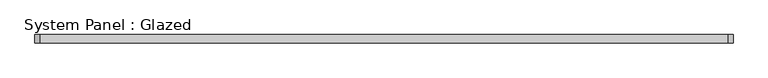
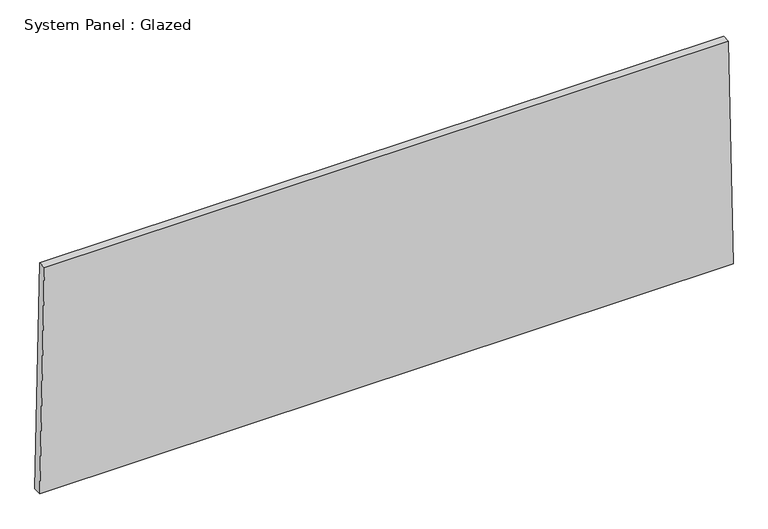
"""IFC4 building model written with IfcOpenShell, lengths in millimetres: plate geometry, System Panel : Glazed."""

import ifcopenshell
import ifcopenshell.guid

model = None  # the IFC model being written
_history = None  # IfcOwnerHistory: only IFC2X3 demands one
_inside = {}  # id of a spatial element -> (the spatial element, [elements in it])
_under = {}  # id of a project, library or spatial element -> (it, [spatial elements below it])
_declared = {}  # id of a project -> (the project, [libraries it declares])
_typed = {}  # id of a type object -> (the type object, [elements of that type])
_made_of = {}  # id of a material, layer set ... -> (it, [elements and type objects made of it])


def new_model(schema):
    """Start an empty IFC model of exactly this schema.

    Asked for "IFC4X3", IfcOpenShell would pick the latest addendum, in which some entities
    have other attributes; the version numbers below select the first issue.
    IFC2X3 requires an IfcOwnerHistory on every rooted entity: one is made here for all.
    """
    global model, _history
    if schema == "IFC4X3":
        model = ifcopenshell.file(schema_version=(4, 3, 0, 0))
    else:
        model = ifcopenshell.file(schema=schema)
    _inside.clear()
    _under.clear()
    _declared.clear()
    _typed.clear()
    _made_of.clear()
    _history = None
    if model.schema == "IFC2X3":
        org = make("IfcOrganization", Name="unknown")
        user = make(
            "IfcPersonAndOrganization",
            ThePerson=make("IfcPerson", FamilyName="unknown"),
            TheOrganization=org,
        )
        app = make(
            "IfcApplication",
            ApplicationDeveloper=org,
            Version="unknown",
            ApplicationFullName="unknown",
            ApplicationIdentifier="unknown",
        )
        _history = make(
            "IfcOwnerHistory",
            OwningUser=user,
            OwningApplication=app,
            ChangeAction="ADDED",
            CreationDate=0,
        )
    return model


def make(cls, **values):
    """One entity of the class cls with the attributes given. An attribute that is None is left unset."""
    return model.create_entity(
        cls, **{name: value for name, value in values.items() if value is not None}
    )


def rooted(cls, **values):
    """An entity with a GlobalId (a new one), such as an element, a storey or a relation."""
    return make(cls, GlobalId=ifcopenshell.guid.new(), OwnerHistory=_history, **values)


def si_unit(unit_type, name, prefix=None):
    """IfcSIUnit, for example si_unit("LENGTHUNIT", "METRE", prefix="MILLI")."""
    return make("IfcSIUnit", UnitType=unit_type, Prefix=prefix, Name=name)


def assignment(units):
    """IfcUnitAssignment: the units of a project."""
    return None if units is None else make("IfcUnitAssignment", Units=units)


def point(xyz):
    """IfcCartesianPoint."""
    return None if xyz is None else make("IfcCartesianPoint", Coordinates=xyz)


def direction(xyz):
    """IfcDirection."""
    return None if xyz is None else make("IfcDirection", DirectionRatios=xyz)


def frame(location, z_axis=None, x_axis=None):
    """IfcAxis2Placement3D, a coordinate frame: its origin and axes. An axis left out is left unset."""
    return make(
        "IfcAxis2Placement3D",
        Location=point(location),
        Axis=direction(z_axis),
        RefDirection=direction(x_axis),
    )


def origin():
    """The frame at (0, 0, 0) with its axes left unset."""
    return frame((0.0, 0.0, 0.0))


def place(relative_to, where):
    """IfcLocalPlacement: puts the frame where relative to a parent placement (None: the world)."""
    return make(
        "IfcLocalPlacement", PlacementRelTo=relative_to, RelativePlacement=where
    )


def context(
    kind, dimensions, precision=None, world=None, true_north=None, identifier=None
):
    """IfcGeometricRepresentationContext, for example the 3D "Model" context."""
    return make(
        "IfcGeometricRepresentationContext",
        ContextIdentifier=identifier,
        ContextType=kind,
        CoordinateSpaceDimension=dimensions,
        Precision=precision,
        WorldCoordinateSystem=world,
        TrueNorth=true_north,
    )


def project(units=None, contexts=None):
    """IfcProject with its units and contexts."""
    return rooted(
        "IfcProject",
        Name="project",
        RepresentationContexts=contexts,
        UnitsInContext=assignment(units),
    )


def spatial(cls, under=None, at=None, **own):
    """A site, building, storey or space (cls), placed at a placement, below another one or the project."""
    s = rooted(cls, ObjectPlacement=at, **own)
    if under is not None:
        _under.setdefault(under.id(), (under, []))[1].append(s)
    return s


def polyline(points):
    """IfcPolyline through the points."""
    return make("IfcPolyline", Points=[point(p) for p in points])


def outline(outer, holes=None, kind="AREA"):
    """IfcArbitraryClosedProfileDef: a profile drawn as a closed curve; with holes, ...WithVoids."""
    if holes is None:
        return make("IfcArbitraryClosedProfileDef", ProfileType=kind, OuterCurve=outer)
    return make(
        "IfcArbitraryProfileDefWithVoids",
        ProfileType=kind,
        OuterCurve=outer,
        InnerCurves=holes,
    )


def extrude(swept, where, along, depth):
    """IfcExtrudedAreaSolid: the profile swept, set in the frame where, extruded along a direction by depth."""
    return make(
        "IfcExtrudedAreaSolid",
        SweptArea=swept,
        Position=where,
        ExtrudedDirection=direction(along),
        Depth=depth,
    )


def shape(context_of_items, identifier, shape_type, items):
    """IfcShapeRepresentation: the items that make up one representation, for example the "Body"."""
    return make(
        "IfcShapeRepresentation",
        ContextOfItems=context_of_items,
        RepresentationIdentifier=identifier,
        RepresentationType=shape_type,
        Items=items,
    )


def source(mapping_origin, context_of_items, identifier, shape_type, items):
    """IfcRepresentationMap: a shape defined once, which mapped items show again and again."""
    return make(
        "IfcRepresentationMap",
        MappingOrigin=mapping_origin,
        MappedRepresentation=shape(context_of_items, identifier, shape_type, items),
    )


def transform(
    local_origin,
    x_axis=None,
    y_axis=None,
    z_axis=None,
    scale=None,
    scale2=None,
    scale3=None,
    uniform=True,
):
    """IfcCartesianTransformationOperator3D, or its non-uniform kind. x_axis, y_axis, z_axis: its Axis1, 2, 3."""
    if uniform:
        return make(
            "IfcCartesianTransformationOperator3D",
            Axis1=direction(x_axis),
            Axis2=direction(y_axis),
            LocalOrigin=point(local_origin),
            Scale=scale,
            Axis3=direction(z_axis),
        )
    return make(
        "IfcCartesianTransformationOperator3DnonUniform",
        Axis1=direction(x_axis),
        Axis2=direction(y_axis),
        LocalOrigin=point(local_origin),
        Scale=scale,
        Axis3=direction(z_axis),
        Scale2=scale2,
        Scale3=scale3,
    )


def mapped(mapping_source, mapping_target):
    """IfcMappedItem: shows the shape of a source again, moved by a transform."""
    return make(
        "IfcMappedItem", MappingSource=mapping_source, MappingTarget=mapping_target
    )


def made_of(thing, what):
    """Note that an element or type object is made of a material, layer set ...; save() writes the relation."""
    if what is not None:
        _made_of.setdefault(what.id(), (what, []))[1].append(thing)
    return thing


def element(
    cls,
    number,
    at=None,
    inside=None,
    cuts=None,
    type_object=None,
    material=None,
    context=None,
    identifier="Body",
    shape_type=None,
    held_by="IfcProductDefinitionShape",
    body=None,
    shapes=None,
    **own,
):
    """One element of the class cls, such as IfcWall. Its Tag is "e" and its number.

    at: its placement. inside: the storey or other place that contains it. cuts: it is an
    opening in that element (IfcRelVoidsElement). A single representation is given by context,
    identifier, shape_type and body (its items); several are given by shapes. held_by: the class
    of the entity that holds the representations. save() writes the other relations.
    """
    e = rooted(cls, Tag="e%d" % number, ObjectPlacement=at, **own)
    if body is not None:
        shapes = [shape(context, identifier, shape_type, body)]
    if shapes is not None:
        e.Representation = make(held_by, Representations=shapes)
    if inside is not None:
        _inside.setdefault(inside.id(), (inside, []))[1].append(e)
    if cuts is not None:
        rooted(
            "IfcRelVoidsElement", RelatingBuildingElement=cuts, RelatedOpeningElement=e
        )
    if type_object is not None:
        _typed.setdefault(type_object.id(), (type_object, []))[1].append(e)
    return made_of(e, material)


def aggregate(whole, parts):
    """IfcRelAggregates: a whole, such as a stair, and the parts it consists of."""
    return rooted("IfcRelAggregates", RelatingObject=whole, RelatedObjects=parts)


def save(model, path):
    """Write the relations noted so far, then the file.

    IfcRelAggregates (storeys below a building ...), IfcRelContainedInSpatialStructure (elements
    in a storey), IfcRelDefinesByType, IfcRelAssociatesMaterial and IfcRelDeclares: one each for
    every whole, place, type object, material and project.
    """
    for whole, parts in _under.values():
        aggregate(whole, parts)
    for where, things in _inside.values():
        rooted(
            "IfcRelContainedInSpatialStructure",
            RelatedElements=things,
            RelatingStructure=where,
        )
    for kind, things in _typed.values():
        rooted("IfcRelDefinesByType", RelatedObjects=things, RelatingType=kind)
    for what, things in _made_of.values():
        rooted("IfcRelAssociatesMaterial", RelatedObjects=things, RelatingMaterial=what)
    for by, libraries in _declared.values():
        rooted("IfcRelDeclares", RelatingContext=by, RelatedDefinitions=libraries)
    model.write(path)


def system_panel_glazed_95229d4f(model_context):
    return source(origin(), model_context, "Body", "SweptSolid", [
        extrude(outline(polyline([(0.0, -1058.0780593), (0.0, 1058.0780593), (723.7529951, 1043.8594649), (723.7529951, -1043.8594649), (0.0, -1058.0780593)])), frame((0.0, -44.45, 0.0), z_axis=(0.0, 1.0, 0.0), x_axis=(0.0, 0.0, 1.0)), (0.0, 0.0, 1.0), 25.4),
    ])


if __name__ == "__main__":
    model = new_model("IFC4")
    model_context = context("Model", 3, world=origin())
    ifc_project = project(units=[si_unit("LENGTHUNIT", "METRE", prefix="MILLI")], contexts=[model_context])
    site = spatial("IfcSite", under=ifc_project)
    building = spatial("IfcBuilding", under=site)
    placement = place(None, origin())
    system_panel_glazed_shape = system_panel_glazed_95229d4f(model_context)
    element("IfcPlate", 1, ObjectType="System Panel : Glazed", at=placement, inside=building, context=model_context, shape_type="MappedRepresentation", body=[
        mapped(system_panel_glazed_shape, transform((0.0, 0.0, 0.0), x_axis=(1.0, 0.0, 0.0), y_axis=(0.0, 1.0, 0.0), z_axis=(0.0, 0.0, 1.0))),
    ])
    save(model, "model.ifc")
